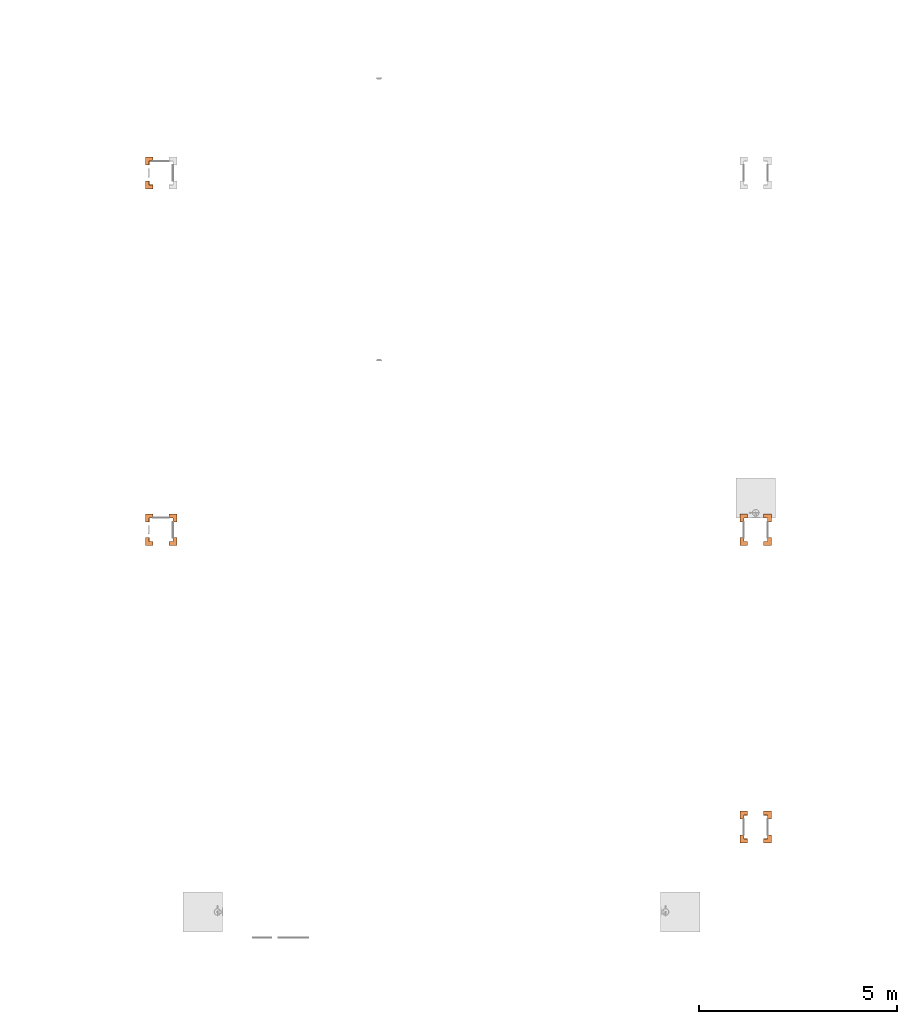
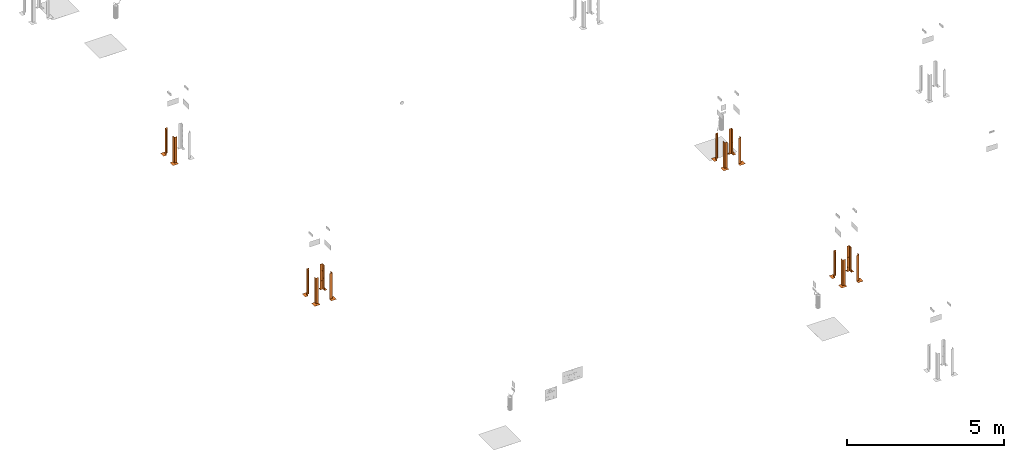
# One storey, part 5 of 119: 14 proxies.
"""IFC2X3 building model written with IfcOpenShell, lengths in metres."""

from ifc_helpers import new_model, entity, si_unit, converted_unit, derived_unit, direction, frame, origin, place, context, subcontext, project, spatial, faceted_brep, source, transform, mapped, material, material_list, type_object, type_shapes, element, save


model = new_model("IFC2X3")

# Units and contexts
model_context = context("Model", 3, precision=1e-05, world=origin(), true_north=direction((6.12303176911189e-17, 1.0)))
body_context = subcontext(model_context, "Body", "Model", "MODEL_VIEW")
ifc_project = project(units=[si_unit("LENGTHUNIT", "METRE"), si_unit("AREAUNIT", "SQUARE_METRE"), si_unit("VOLUMEUNIT", "CUBIC_METRE"), converted_unit("PLANEANGLEUNIT", "DEGREE", entity("IfcRatioMeasure", 0.0174532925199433), si_unit("PLANEANGLEUNIT", "RADIAN"), dimensions=[0, 0, 0, 0, 0, 0, 0]), si_unit("MASSUNIT", "GRAM", prefix="KILO"), derived_unit("MASSDENSITYUNIT", [(si_unit("MASSUNIT", "GRAM", prefix="KILO"), 1), (si_unit("LENGTHUNIT", "METRE"), -3)]), derived_unit("MOMENTOFINERTIAUNIT", [(si_unit("LENGTHUNIT", "METRE"), 4)]), si_unit("TIMEUNIT", "SECOND"), si_unit("FREQUENCYUNIT", "HERTZ"), si_unit("THERMODYNAMICTEMPERATUREUNIT", "DEGREE_CELSIUS"), derived_unit("THERMALTRANSMITTANCEUNIT", [(si_unit("MASSUNIT", "GRAM", prefix="KILO"), 1), (si_unit("THERMODYNAMICTEMPERATUREUNIT", "KELVIN"), -1), (si_unit("TIMEUNIT", "SECOND"), -3)]), derived_unit("VOLUMETRICFLOWRATEUNIT", [(si_unit("LENGTHUNIT", "METRE"), 3), (si_unit("TIMEUNIT", "SECOND"), -1)]), si_unit("ELECTRICCURRENTUNIT", "AMPERE"), si_unit("ELECTRICVOLTAGEUNIT", "VOLT"), si_unit("POWERUNIT", "WATT"), si_unit("FORCEUNIT", "NEWTON", prefix="KILO"), si_unit("ILLUMINANCEUNIT", "LUX"), si_unit("LUMINOUSFLUXUNIT", "LUMEN"), si_unit("LUMINOUSINTENSITYUNIT", "CANDELA"), derived_unit("USERDEFINED", [(si_unit("MASSUNIT", "GRAM", prefix="KILO"), -1), (si_unit("LENGTHUNIT", "METRE"), -2), (si_unit("TIMEUNIT", "SECOND"), 3), (si_unit("LUMINOUSFLUXUNIT", "LUMEN"), 1)]), derived_unit("LINEARVELOCITYUNIT", [(si_unit("LENGTHUNIT", "METRE"), 1), (si_unit("TIMEUNIT", "SECOND"), -1)]), si_unit("PRESSUREUNIT", "PASCAL"), derived_unit("USERDEFINED", [(si_unit("LENGTHUNIT", "METRE"), -2), (si_unit("MASSUNIT", "GRAM", prefix="KILO"), 1), (si_unit("TIMEUNIT", "SECOND"), -2)]), derived_unit("LINEARFORCEUNIT", [(si_unit("MASSUNIT", "GRAM", prefix="KILO"), 1), (si_unit("LENGTHUNIT", "METRE"), 1), (si_unit("TIMEUNIT", "SECOND"), -2), (si_unit("LENGTHUNIT", "METRE"), -1)]), derived_unit("PLANARFORCEUNIT", [(si_unit("MASSUNIT", "GRAM", prefix="KILO"), 1), (si_unit("LENGTHUNIT", "METRE"), 1), (si_unit("TIMEUNIT", "SECOND"), -2), (si_unit("LENGTHUNIT", "METRE"), -2)])], contexts=[model_context])

# Site, building, storey
site_placement = place(None, origin())
site = spatial("IfcSite", under=ifc_project, at=site_placement, Name="Default", CompositionType="ELEMENT")
building_placement = place(site_placement, origin())
building = spatial("IfcBuilding", under=site, at=building_placement, CompositionType="ELEMENT")
storey_placement = place(building_placement, origin())
storey = spatial("IfcBuildingStorey", under=building, at=storey_placement, Name="PAV. 01 - TÉRREO", CompositionType="ELEMENT", Elevation=0.0)

# Proxies
ifc_material_1 = material(Name="Plastico Amarelo")
ifc_material_2 = material(Name="Plastico Preto")
ifc_material_3 = material(Name="O_01_amarelo")
ifc_material_4 = material(Name="O_01_Preto")
ifc_material_list_1 = material_list([ifc_material_1, ifc_material_2, ifc_material_3, ifc_material_4])
ifc_material_list_2 = material_list([ifc_material_3, ifc_material_4, ifc_material_1])
building_element_proxy_type = type_object("IfcBuildingElementProxyType", Name="Indicação de Obstáculos:Indicador - O01 - Amarelo (ambiente interno)", PredefinedType="NOTDEFINED", material=ifc_material_list_2)
shared_shape = source(origin(), body_context, "Body", "Brep", [
    faceted_brep([(0.1, -0.0499999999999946, 0.000999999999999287), (0.0499999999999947, -0.1, 0.000999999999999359), (0.1, -0.1, 0.000999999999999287), (0.1, -0.0499999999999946, 0.0), (0.1, -0.1, 0.0), (0.0499999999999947, -0.1, 0.0)], [[[0, 1, 2]], [[3, 4, 5]], [[0, 2, 4, 3]], [[1, 0, 3, 5]], [[2, 1, 5, 4]]]),
    faceted_brep([(0.100000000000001, 0.0, 0.000999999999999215), (0.0, -0.1, 0.000999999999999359), (0.049999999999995, -0.1, 0.000999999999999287), (0.100000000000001, -0.0499999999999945, 0.000999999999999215), (0.100000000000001, 0.0, 0.0), (0.100000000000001, -0.0499999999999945, 0.0), (0.049999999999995, -0.1, 0.0), (0.0, -0.1, 0.0)], [[[0, 1, 2, 3]], [[4, 5, 6, 7]], [[0, 3, 5, 4]], [[1, 0, 4, 7]], [[3, 2, 6, 5]], [[2, 1, 7, 6]]]),
    faceted_brep([(0.049999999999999, 0.0, 0.000999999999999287), (-0.0500000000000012, -0.0999999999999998, 0.000999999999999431), (0.0, -0.1, 0.000999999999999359), (0.0999999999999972, 0.0, 0.000999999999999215), (0.049999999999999, 0.0, 0.0), (0.0999999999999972, 0.0, 0.0), (0.0, -0.1, 0.0), (-0.0500000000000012, -0.0999999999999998, 0.0)], [[[0, 1, 2, 3]], [[4, 5, 6, 7]], [[1, 0, 4, 7]], [[3, 2, 6, 5]], [[2, 1, 7, 6]], [[0, 3, 5, 4]]]),
    faceted_brep([(-0.0999999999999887, -0.0999999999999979, 0.000999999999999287), (-0.0499999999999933, -0.0999999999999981, 0.000999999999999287), (0.0499999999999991, 0.0, 0.000999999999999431), (0.0, 0.0, 0.000999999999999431), (-0.0999999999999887, -0.0999999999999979, 0.0), (0.0, 0.0, 0.0), (0.049999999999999, 0.0, 0.0), (-0.0499999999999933, -0.0999999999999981, 0.0)], [[[0, 1, 2, 3]], [[4, 5, 6, 7]], [[0, 3, 5, 4]], [[2, 1, 7, 6]], [[3, 2, 6, 5]], [[1, 0, 4, 7]]]),
    faceted_brep([(0.0, 0.0500000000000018, 0.000999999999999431), (-0.0999999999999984, -0.0500000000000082, 0.000999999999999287), (-0.099999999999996, -0.100000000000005, 0.000999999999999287), (0.0, 0.0, 0.000999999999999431), (0.0, 0.0500000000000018, 0.0), (0.0, 0.0, 0.0), (-0.099999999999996, -0.100000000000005, 0.0), (-0.0999999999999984, -0.0500000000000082, 0.0)], [[[0, 1, 2, 3]], [[4, 5, 6, 7]], [[0, 3, 5, 4]], [[1, 0, 4, 7]], [[2, 1, 7, 6]], [[3, 2, 6, 5]]]),
    faceted_brep([(-0.0999999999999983, 0.0499999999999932, 0.000999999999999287), (-0.0499999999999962, 0.1, 0.000999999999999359), (-0.100000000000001, 0.1, 0.000999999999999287), (-0.0999999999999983, 0.0499999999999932, 0.0), (-0.100000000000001, 0.1, 0.0), (-0.0499999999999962, 0.1, 0.0)], [[[0, 1, 2]], [[3, 4, 5]], [[0, 2, 4, 3]], [[1, 0, 3, 5]], [[2, 1, 5, 4]]]),
    faceted_brep([(-0.0999999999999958, 0.0, 0.000999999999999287), (0.0, 0.1, 0.000999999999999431), (-0.0499999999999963, 0.1, 0.000999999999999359), (-0.0999999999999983, 0.0499999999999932, 0.000999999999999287), (-0.0999999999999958, 0.0, 0.0), (-0.0999999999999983, 0.0499999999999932, 0.0), (-0.0499999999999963, 0.1, 0.0), (0.0, 0.1, 0.0)], [[[0, 1, 2, 3]], [[4, 5, 6, 7]], [[0, 3, 5, 4]], [[1, 0, 4, 7]], [[3, 2, 6, 5]], [[2, 1, 7, 6]]]),
    faceted_brep([(0.0, 0.050000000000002, 0.000999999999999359), (0.0, 0.1, 0.000999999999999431), (-0.0999999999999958, 0.0, 0.000999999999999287), (-0.0999999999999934, -0.0500000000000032, 0.000999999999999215), (0.0, 0.0500000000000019, 0.0), (-0.0999999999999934, -0.0500000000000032, 0.0), (-0.0999999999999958, 0.0, 0.0), (0.0, 0.1, 0.0)], [[[0, 1, 2, 3]], [[4, 5, 6, 7]], [[1, 0, 4, 7]], [[2, 1, 7, 6]], [[0, 3, 5, 4]], [[3, 2, 6, 5]]]),
    faceted_brep([(0.00200000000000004, 0.1, 1.0), (0.002, 0.00199999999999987, 0.902000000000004), (0.002, 0.00199999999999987, 0.802000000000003), (0.00200000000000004, 0.1, 0.900000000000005), (0.0, 0.1, 0.900000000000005), (0.0, 0.0, 0.800000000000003), (0.0, 0.0, 0.900000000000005), (0.0, 0.1, 1.0)], [[[0, 1, 2, 3]], [[4, 5, 6, 7]], [[4, 3, 2, 5]], [[1, 6, 5, 2]], [[6, 1, 0, 7]], [[3, 4, 7, 0]]]),
    faceted_brep([(0.00200000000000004, 0.1, 0.800000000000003), (0.002, 0.00199999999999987, 0.702000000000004), (0.002, 0.00199999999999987, 0.602000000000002), (0.00200000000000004, 0.1, 0.700000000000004), (0.0, 0.1, 0.700000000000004), (0.0, 0.0, 0.600000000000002), (0.0, 0.0, 0.700000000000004), (0.0, 0.1, 0.800000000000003)], [[[0, 1, 2, 3]], [[4, 5, 6, 7]], [[4, 3, 2, 5]], [[1, 6, 5, 2]], [[6, 1, 0, 7]], [[3, 4, 7, 0]]]),
    faceted_brep([(0.00200000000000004, 0.1, 0.600000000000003), (0.002, 0.00199999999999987, 0.502000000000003), (0.002, 0.00199999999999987, 0.402000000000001), (0.00200000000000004, 0.1, 0.500000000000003), (0.0, 0.1, 0.500000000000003), (0.0, 0.0, 0.400000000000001), (0.0, 0.0, 0.500000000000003), (0.0, 0.1, 0.600000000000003)], [[[0, 1, 2, 3]], [[4, 5, 6, 7]], [[4, 3, 2, 5]], [[1, 6, 5, 2]], [[6, 1, 0, 7]], [[3, 4, 7, 0]]]),
    faceted_brep([(0.00200000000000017, 0.0999999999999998, 0.400000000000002), (0.00200000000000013, 0.0019999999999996, 0.302000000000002), (0.00200000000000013, 0.0019999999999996, 0.202), (0.00200000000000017, 0.0999999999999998, 0.300000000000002), (0.0, 0.0999999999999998, 0.300000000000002), (0.0, 0.0, 0.2), (0.0, 0.0, 0.300000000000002), (0.0, 0.0999999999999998, 0.400000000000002)], [[[0, 1, 2, 3]], [[4, 5, 6, 7]], [[4, 3, 2, 5]], [[1, 6, 5, 2]], [[6, 1, 0, 7]], [[3, 4, 7, 0]]]),
    faceted_brep([(0.000500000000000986, 0.1, 0.900000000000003), (0.000500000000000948, 0.000499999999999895, 0.800500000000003), (0.000500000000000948, 0.00049999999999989, 0.700500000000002), (0.000500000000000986, 0.1, 0.800000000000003), (0.0, 0.1, 0.800000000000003), (0.0, 0.0, 0.700000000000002), (0.0, 0.0, 0.800000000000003), (0.0, 0.1, 0.900000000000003)], [[[0, 1, 2, 3]], [[4, 5, 6, 7]], [[4, 3, 2, 5]], [[1, 6, 5, 2]], [[6, 1, 0, 7]], [[3, 4, 7, 0]]]),
    faceted_brep([(0.000500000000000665, 0.1, 0.700000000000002), (0.000500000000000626, 0.000499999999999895, 0.600500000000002), (0.000500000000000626, 0.00049999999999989, 0.500500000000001), (0.000500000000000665, 0.1, 0.600000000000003), (0.0, 0.1, 0.600000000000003), (0.0, 0.0, 0.500000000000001), (0.0, 0.0, 0.600000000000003), (0.0, 0.1, 0.700000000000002)], [[[0, 1, 2, 3]], [[4, 5, 6, 7]], [[4, 3, 2, 5]], [[1, 6, 5, 2]], [[6, 1, 0, 7]], [[3, 4, 7, 0]]]),
    faceted_brep([(0.000500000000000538, 0.0999999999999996, 0.500000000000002), (0.000500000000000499, 0.000499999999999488, 0.400500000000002), (0.000500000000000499, 0.000499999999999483, 0.3005), (0.000500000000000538, 0.0999999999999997, 0.400000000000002), (0.0, 0.0999999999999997, 0.400000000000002), (0.0, 0.0, 0.3), (0.0, 0.0, 0.400000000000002), (0.0, 0.0999999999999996, 0.500000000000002)], [[[0, 1, 2, 3]], [[4, 5, 6, 7]], [[4, 3, 2, 5]], [[1, 6, 5, 2]], [[6, 1, 0, 7]], [[3, 4, 7, 0]]]),
    faceted_brep([(0.00499999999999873, 0.00499999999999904, 1.0), (0.00499999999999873, 0.00499999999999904, 0.904999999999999), (0.00499999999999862, 0.0999999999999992, 1.0), (0.0, 0.0, 0.899999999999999), (0.0, 0.0, 1.0), (0.0, 0.0999999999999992, 1.0)], [[[0, 1, 2]], [[3, 4, 5]], [[4, 0, 2, 5]], [[5, 2, 1, 3]], [[0, 4, 3, 1]]]),
    faceted_brep([(0.00499999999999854, 0.00499999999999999, 1.0), (0.0999999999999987, 0.00499999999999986, 1.0), (0.00499999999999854, 0.00499999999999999, 0.904999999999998), (0.0, 0.0, 0.899999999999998), (0.0999999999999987, 0.0, 1.0), (0.0, 0.0, 1.0)], [[[0, 1, 2]], [[3, 4, 5]], [[5, 4, 1, 0]], [[4, 3, 2, 1]], [[0, 2, 3, 5]]]),
    faceted_brep([(0.0999999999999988, 0.000499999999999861, 0.900000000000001), (0.0999999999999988, 0.000499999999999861, 0.800000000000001), (0.000499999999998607, 0.000499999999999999, 0.7005), (0.000499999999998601, 0.000499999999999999, 0.800500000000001), (0.0999999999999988, 0.0, 0.800000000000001), (0.0999999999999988, 0.0, 0.900000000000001), (0.0, 0.0, 0.800000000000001), (0.0, 0.0, 0.7)], [[[0, 1, 2, 3]], [[4, 5, 6, 7]], [[4, 7, 2, 1]], [[3, 2, 7, 6]], [[6, 5, 0, 3]], [[1, 0, 5, 4]]]),
    faceted_brep([(0.0999999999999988, 0.000499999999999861, 0.700000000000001), (0.0999999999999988, 0.000499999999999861, 0.600000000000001), (0.000499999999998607, 0.000499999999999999, 0.5005), (0.000499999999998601, 0.000499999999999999, 0.600500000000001), (0.0999999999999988, 0.0, 0.600000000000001), (0.0999999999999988, 0.0, 0.700000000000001), (0.0, 0.0, 0.600000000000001), (0.0, 0.0, 0.5)], [[[0, 1, 2, 3]], [[4, 5, 6, 7]], [[4, 7, 2, 1]], [[3, 2, 7, 6]], [[6, 5, 0, 3]], [[1, 0, 5, 4]]]),
    faceted_brep([(0.0999999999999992, 0.000499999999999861, 0.500000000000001), (0.0999999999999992, 0.000499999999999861, 0.400000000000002), (0.000499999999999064, 0.000499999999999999, 0.3005), (0.000499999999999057, 0.000499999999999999, 0.400500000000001), (0.0999999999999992, 0.0, 0.400000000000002), (0.0999999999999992, 0.0, 0.500000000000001), (0.0, 0.0, 0.400000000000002), (0.0, 0.0, 0.3)], [[[0, 1, 2, 3]], [[4, 5, 6, 7]], [[4, 7, 2, 1]], [[3, 2, 7, 6]], [[6, 5, 0, 3]], [[1, 0, 5, 4]]]),
    faceted_brep([(0.0999999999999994, 0.00199999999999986, 1.0), (0.0999999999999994, 0.00199999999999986, 0.900000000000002), (0.00199999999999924, 0.002, 0.802), (0.00199999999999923, 0.002, 0.902000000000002), (0.0999999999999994, 0.0, 0.900000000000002), (0.0999999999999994, 0.0, 1.0), (0.0, 0.0, 0.900000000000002), (0.0, 0.0, 0.8)], [[[0, 1, 2, 3]], [[4, 5, 6, 7]], [[4, 7, 2, 1]], [[3, 2, 7, 6]], [[6, 5, 0, 3]], [[1, 0, 5, 4]]]),
    faceted_brep([(0.0999999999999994, 0.00199999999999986, 0.800000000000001), (0.0999999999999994, 0.00199999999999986, 0.700000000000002), (0.00199999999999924, 0.002, 0.602), (0.00199999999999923, 0.002, 0.702000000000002), (0.0999999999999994, 0.0, 0.700000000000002), (0.0999999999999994, 0.0, 0.800000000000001), (0.0, 0.0, 0.700000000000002), (0.0, 0.0, 0.6)], [[[0, 1, 2, 3]], [[4, 5, 6, 7]], [[4, 7, 2, 1]], [[3, 2, 7, 6]], [[6, 5, 0, 3]], [[1, 0, 5, 4]]]),
    faceted_brep([(0.0999999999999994, 0.00199999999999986, 0.600000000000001), (0.0999999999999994, 0.00199999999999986, 0.500000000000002), (0.00199999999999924, 0.002, 0.402), (0.00199999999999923, 0.002, 0.502000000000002), (0.0999999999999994, 0.0, 0.500000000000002), (0.0999999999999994, 0.0, 0.600000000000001), (0.0, 0.0, 0.500000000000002), (0.0, 0.0, 0.4)], [[[0, 1, 2, 3]], [[4, 5, 6, 7]], [[4, 7, 2, 1]], [[3, 2, 7, 6]], [[6, 5, 0, 3]], [[1, 0, 5, 4]]]),
    faceted_brep([(0.0999999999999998, 0.00199999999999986, 0.400000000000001), (0.0999999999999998, 0.00199999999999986, 0.300000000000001), (0.00199999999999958, 0.002, 0.202), (0.00199999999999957, 0.002, 0.302000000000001), (0.0999999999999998, 0.0, 0.300000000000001), (0.0999999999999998, 0.0, 0.400000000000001), (0.0, 0.0, 0.300000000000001), (0.0, 0.0, 0.2)], [[[0, 1, 2, 3]], [[4, 5, 6, 7]], [[4, 7, 2, 1]], [[3, 2, 7, 6]], [[6, 5, 0, 3]], [[1, 0, 5, 4]]]),
    faceted_brep([(0.000500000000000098, 0.1, 0.300000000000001), (0.000500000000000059, 0.000499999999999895, 0.200500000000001), (0.000500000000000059, 0.00049999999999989, 0.1005), (0.000500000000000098, 0.1, 0.200000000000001), (0.0, 0.1, 0.200000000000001), (0.0, 0.0, 0.0999999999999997), (0.0, 0.0, 0.200000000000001), (0.0, 0.1, 0.300000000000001)], [[[0, 1, 2, 3]], [[4, 5, 6, 7]], [[4, 3, 2, 5]], [[1, 6, 5, 2]], [[6, 1, 0, 7]], [[3, 4, 7, 0]]]),
    faceted_brep([(0.00200000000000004, 0.1, 0.200000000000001), (0.002, 0.00199999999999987, 0.102000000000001), (0.002, 0.00199999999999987, 0.00199999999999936), (0.00200000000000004, 0.1, 0.100000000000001), (0.0, 0.1, 0.100000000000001), (0.0, 0.0, 0.0), (0.0, 0.0, 0.100000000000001), (0.0, 0.1, 0.200000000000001)], [[[0, 1, 2, 3]], [[4, 5, 6, 7]], [[4, 3, 2, 5]], [[1, 6, 5, 2]], [[6, 1, 0, 7]], [[3, 4, 7, 0]]]),
    faceted_brep([(0.000500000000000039, 0.1, 0.100000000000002), (0.0005, 0.000499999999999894, 0.000499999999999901), (0.0005, 0.000499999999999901, 0.0), (0.000500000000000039, 0.1, 0.0), (0.0, 0.0, 0.0), (0.0, 0.1, 0.100000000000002), (0.0, 0.1, 0.0)], [[[0, 1, 2, 3]], [[4, 5, 6]], [[3, 6, 5, 0]], [[6, 3, 2, 4]], [[4, 1, 0, 5]], [[1, 4, 2]]]),
    faceted_brep([(0.0999999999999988, 0.000499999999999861, 0.300000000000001), (0.0999999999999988, 0.000499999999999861, 0.200000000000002), (0.000499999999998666, 0.000499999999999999, 0.1005), (0.00049999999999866, 0.000499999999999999, 0.200500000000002), (0.0999999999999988, 0.0, 0.200000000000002), (0.0999999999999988, 0.0, 0.300000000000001), (0.0, 0.0, 0.200000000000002), (0.0, 0.0, 0.1)], [[[0, 1, 2, 3]], [[4, 5, 6, 7]], [[4, 7, 2, 1]], [[3, 2, 7, 6]], [[6, 5, 0, 3]], [[1, 0, 5, 4]]]),
    faceted_brep([(0.0999999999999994, 0.00199999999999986, 0.200000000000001), (0.0999999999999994, 0.00199999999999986, 0.100000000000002), (0.00199999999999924, 0.002, 0.0019999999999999), (0.00199999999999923, 0.002, 0.102000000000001), (0.0999999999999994, 0.0, 0.100000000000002), (0.0999999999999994, 0.0, 0.200000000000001), (0.0, 0.0, 0.100000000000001), (0.0, 0.0, 0.0)], [[[0, 1, 2, 3]], [[4, 5, 6, 7]], [[4, 7, 2, 1]], [[3, 2, 7, 6]], [[6, 5, 0, 3]], [[1, 0, 5, 4]]]),
    faceted_brep([(0.1, 0.000499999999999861, 0.100000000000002), (0.1, 0.000499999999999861, 0.0), (0.000499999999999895, 0.000499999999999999, 0.0), (0.000499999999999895, 0.000499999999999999, 0.000499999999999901), (0.0, 0.0, 0.0), (0.1, 0.0, 0.0), (0.1, 0.0, 0.100000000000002)], [[[0, 1, 2, 3]], [[4, 5, 6]], [[1, 0, 6, 5]], [[5, 4, 2, 1]], [[4, 6, 0, 3]], [[3, 2, 4]]]),
])
type_shapes(building_element_proxy_type, [shared_shape])
proxy_1_placement = place(storey_placement, frame((5.87387552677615, 22.6286563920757, 0.0)))
element("IfcBuildingElementProxy", 1, at=proxy_1_placement, inside=storey, type_object=building_element_proxy_type, material=ifc_material_list_1, Name="Indicação de Obstáculos:Indicador - O01 - Amarelo (ambiente interno)", ObjectType="Indicação de Obstáculos:Indicador - O01 - Amarelo (ambiente interno)", context=body_context, shape_type="MappedRepresentation", body=[
    mapped(shared_shape, transform((0.0, 0.0, 0.0), scale=1.0)),
])
ifc_material_list_3 = material_list([ifc_material_1, ifc_material_2, ifc_material_3, ifc_material_4])
proxy_2_placement = place(storey_placement, frame((5.87387552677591, 23.2286556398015, 0.0), z_axis=(0.0, 0.0, 1.0), x_axis=(0.0, -1.0, 0.0)))
element("IfcBuildingElementProxy", 2, at=proxy_2_placement, inside=storey, type_object=building_element_proxy_type, material=ifc_material_list_3, Name="Indicação de Obstáculos:Indicador - O01 - Amarelo (ambiente interno)", ObjectType="Indicação de Obstáculos:Indicador - O01 - Amarelo (ambiente interno)", context=body_context, shape_type="MappedRepresentation", body=[
    mapped(shared_shape, transform((0.0, 0.0, 0.0), scale=1.0)),
])
ifc_material_list_4 = material_list([ifc_material_1, ifc_material_2, ifc_material_3, ifc_material_4])
proxy_3_placement = place(storey_placement, frame((6.47387477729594, 13.6286676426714, 0.0), z_axis=(0.0, 0.0, 1.0), x_axis=(0.0, 1.0, 0.0)))
element("IfcBuildingElementProxy", 3, at=proxy_3_placement, inside=storey, type_object=building_element_proxy_type, material=ifc_material_list_4, Name="Indicação de Obstáculos:Indicador - O01 - Amarelo (ambiente interno)", ObjectType="Indicação de Obstáculos:Indicador - O01 - Amarelo (ambiente interno)", context=body_context, shape_type="MappedRepresentation", body=[
    mapped(shared_shape, transform((0.0, 0.0, 0.0), scale=1.0)),
])
ifc_material_list_5 = material_list([ifc_material_1, ifc_material_2, ifc_material_3, ifc_material_4])
proxy_4_placement = place(storey_placement, frame((5.87387552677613, 13.6286676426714, 0.0)))
element("IfcBuildingElementProxy", 4, at=proxy_4_placement, inside=storey, type_object=building_element_proxy_type, material=ifc_material_list_5, Name="Indicação de Obstáculos:Indicador - O01 - Amarelo (ambiente interno)", ObjectType="Indicação de Obstáculos:Indicador - O01 - Amarelo (ambiente interno)", context=body_context, shape_type="MappedRepresentation", body=[
    mapped(shared_shape, transform((0.0, 0.0, 0.0), scale=1.0)),
])
ifc_material_list_6 = material_list([ifc_material_1, ifc_material_2, ifc_material_3, ifc_material_4])
proxy_5_placement = place(storey_placement, frame((6.47387477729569, 14.2286668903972, 0.0), z_axis=(0.0, 0.0, 1.0), x_axis=(-1.0, 0.0, 0.0)))
element("IfcBuildingElementProxy", 5, at=proxy_5_placement, inside=storey, type_object=building_element_proxy_type, material=ifc_material_list_6, Name="Indicação de Obstáculos:Indicador - O01 - Amarelo (ambiente interno)", ObjectType="Indicação de Obstáculos:Indicador - O01 - Amarelo (ambiente interno)", context=body_context, shape_type="MappedRepresentation", body=[
    mapped(shared_shape, transform((0.0, 0.0, 0.0), scale=1.0)),
])
ifc_material_list_7 = material_list([ifc_material_1, ifc_material_2, ifc_material_3, ifc_material_4])
proxy_6_placement = place(storey_placement, frame((5.87387552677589, 14.2286668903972, 0.0), z_axis=(0.0, 0.0, 1.0), x_axis=(0.0, -1.0, 0.0)))
element("IfcBuildingElementProxy", 6, at=proxy_6_placement, inside=storey, type_object=building_element_proxy_type, material=ifc_material_list_7, Name="Indicação de Obstáculos:Indicador - O01 - Amarelo (ambiente interno)", ObjectType="Indicação de Obstáculos:Indicador - O01 - Amarelo (ambiente interno)", context=body_context, shape_type="MappedRepresentation", body=[
    mapped(shared_shape, transform((0.0, 0.0, 0.0), scale=1.0)),
])
ifc_material_list_8 = material_list([ifc_material_1, ifc_material_2, ifc_material_3, ifc_material_4])
proxy_7_placement = place(storey_placement, frame((21.4738560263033, 13.6286676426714, 0.0), z_axis=(0.0, 0.0, 1.0), x_axis=(0.0, 1.0, 0.0)))
element("IfcBuildingElementProxy", 7, at=proxy_7_placement, inside=storey, type_object=building_element_proxy_type, material=ifc_material_list_8, Name="Indicação de Obstáculos:Indicador - O01 - Amarelo (ambiente interno)", ObjectType="Indicação de Obstáculos:Indicador - O01 - Amarelo (ambiente interno)", context=body_context, shape_type="MappedRepresentation", body=[
    mapped(shared_shape, transform((0.0, 0.0, 0.0), scale=1.0)),
])
ifc_material_list_9 = material_list([ifc_material_1, ifc_material_2, ifc_material_3, ifc_material_4])
proxy_8_placement = place(storey_placement, frame((20.8738567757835, 13.6286676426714, 0.0)))
element("IfcBuildingElementProxy", 8, at=proxy_8_placement, inside=storey, type_object=building_element_proxy_type, material=ifc_material_list_9, Name="Indicação de Obstáculos:Indicador - O01 - Amarelo (ambiente interno)", ObjectType="Indicação de Obstáculos:Indicador - O01 - Amarelo (ambiente interno)", context=body_context, shape_type="MappedRepresentation", body=[
    mapped(shared_shape, transform((0.0, 0.0, 0.0), scale=1.0)),
])
ifc_material_list_10 = material_list([ifc_material_1, ifc_material_2, ifc_material_3, ifc_material_4])
proxy_9_placement = place(storey_placement, frame((21.4738560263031, 14.2286668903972, 0.0), z_axis=(0.0, 0.0, 1.0), x_axis=(-1.0, 0.0, 0.0)))
element("IfcBuildingElementProxy", 9, at=proxy_9_placement, inside=storey, type_object=building_element_proxy_type, material=ifc_material_list_10, Name="Indicação de Obstáculos:Indicador - O01 - Amarelo (ambiente interno)", ObjectType="Indicação de Obstáculos:Indicador - O01 - Amarelo (ambiente interno)", context=body_context, shape_type="MappedRepresentation", body=[
    mapped(shared_shape, transform((0.0, 0.0, 0.0), scale=1.0)),
])
ifc_material_list_11 = material_list([ifc_material_1, ifc_material_2, ifc_material_3, ifc_material_4])
proxy_10_placement = place(storey_placement, frame((20.8738567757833, 14.2286668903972, 0.0), z_axis=(0.0, 0.0, 1.0), x_axis=(0.0, -1.0, 0.0)))
element("IfcBuildingElementProxy", 10, at=proxy_10_placement, inside=storey, type_object=building_element_proxy_type, material=ifc_material_list_11, Name="Indicação de Obstáculos:Indicador - O01 - Amarelo (ambiente interno)", ObjectType="Indicação de Obstáculos:Indicador - O01 - Amarelo (ambiente interno)", context=body_context, shape_type="MappedRepresentation", body=[
    mapped(shared_shape, transform((0.0, 0.0, 0.0), scale=1.0)),
])
ifc_material_list_12 = material_list([ifc_material_1, ifc_material_2, ifc_material_3, ifc_material_4])
proxy_11_placement = place(storey_placement, frame((21.4738560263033, 6.12867701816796, 0.0), z_axis=(0.0, 0.0, 1.0), x_axis=(0.0, 1.0, 0.0)))
element("IfcBuildingElementProxy", 11, at=proxy_11_placement, inside=storey, type_object=building_element_proxy_type, material=ifc_material_list_12, Name="Indicação de Obstáculos:Indicador - O01 - Amarelo (ambiente interno)", ObjectType="Indicação de Obstáculos:Indicador - O01 - Amarelo (ambiente interno)", context=body_context, shape_type="MappedRepresentation", body=[
    mapped(shared_shape, transform((0.0, 0.0, 0.0), scale=1.0)),
])
ifc_material_list_13 = material_list([ifc_material_1, ifc_material_2, ifc_material_3, ifc_material_4])
proxy_12_placement = place(storey_placement, frame((20.8738567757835, 6.12867701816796, 0.0)))
element("IfcBuildingElementProxy", 12, at=proxy_12_placement, inside=storey, type_object=building_element_proxy_type, material=ifc_material_list_13, Name="Indicação de Obstáculos:Indicador - O01 - Amarelo (ambiente interno)", ObjectType="Indicação de Obstáculos:Indicador - O01 - Amarelo (ambiente interno)", context=body_context, shape_type="MappedRepresentation", body=[
    mapped(shared_shape, transform((0.0, 0.0, 0.0), scale=1.0)),
])
ifc_material_list_14 = material_list([ifc_material_1, ifc_material_2, ifc_material_3, ifc_material_4])
proxy_13_placement = place(storey_placement, frame((21.4738560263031, 6.72867626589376, 0.0), z_axis=(0.0, 0.0, 1.0), x_axis=(-1.0, 0.0, 0.0)))
element("IfcBuildingElementProxy", 13, at=proxy_13_placement, inside=storey, type_object=building_element_proxy_type, material=ifc_material_list_14, Name="Indicação de Obstáculos:Indicador - O01 - Amarelo (ambiente interno)", ObjectType="Indicação de Obstáculos:Indicador - O01 - Amarelo (ambiente interno)", context=body_context, shape_type="MappedRepresentation", body=[
    mapped(shared_shape, transform((0.0, 0.0, 0.0), scale=1.0)),
])
ifc_material_list_15 = material_list([ifc_material_1, ifc_material_2, ifc_material_3, ifc_material_4])
proxy_14_placement = place(storey_placement, frame((20.8738567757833, 6.72867626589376, 0.0), z_axis=(0.0, 0.0, 1.0), x_axis=(0.0, -1.0, 0.0)))
element("IfcBuildingElementProxy", 14, at=proxy_14_placement, inside=storey, type_object=building_element_proxy_type, material=ifc_material_list_15, Name="Indicação de Obstáculos:Indicador - O01 - Amarelo (ambiente interno)", ObjectType="Indicação de Obstáculos:Indicador - O01 - Amarelo (ambiente interno)", context=body_context, shape_type="MappedRepresentation", body=[
    mapped(shared_shape, transform((0.0, 0.0, 0.0), scale=1.0)),
])

save(model, "model.ifc")
